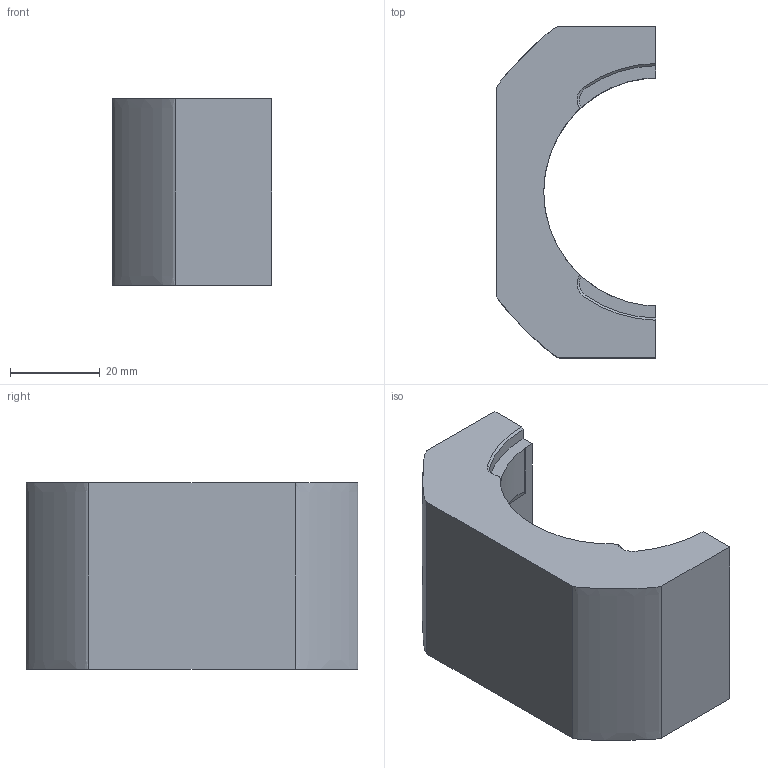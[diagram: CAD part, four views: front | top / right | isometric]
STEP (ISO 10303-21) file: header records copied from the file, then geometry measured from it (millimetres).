
FILE_DESCRIPTION((''),'2;1');
FILE_NAME('KD-C-503X_CLAMP_KEY-514864_1','2025-07-12T13:39:43',('Administrator'),(''),'CREO PARAMETRIC BY PTC INC, 2022073','CREO PARAMETRIC BY PTC INC, 2022073','');
FILE_SCHEMA(('CONFIG_CONTROL_DESIGN'));
Length unit declared in the file: millimetre
Products named in the file (1): KD-C-503X_CLAMP_KEY-514864_1
Bounding box: 35.5 x 74 x 41.5 mm (x, y, z)
Volume: 53062.6 mm3; surface area: 13873.5 mm2
Topology: 1 solids, 1 shells, 100 faces, 262 edges, 158 vertices
Faces by surface type: cylinder 30, plane 22, bspline 20, cone 10, torus 8, sphere 8, extrusion 2
Entity records: 3714 total; most frequent: CARTESIAN_POINT 1402, ORIENTED_EDGE 508, DIRECTION 440, EDGE_CURVE 254, AXIS2_PLACEMENT_3D 178, VERTEX_POINT 158, EDGE_LOOP 102, FACE_OUTER_BOUND 100
